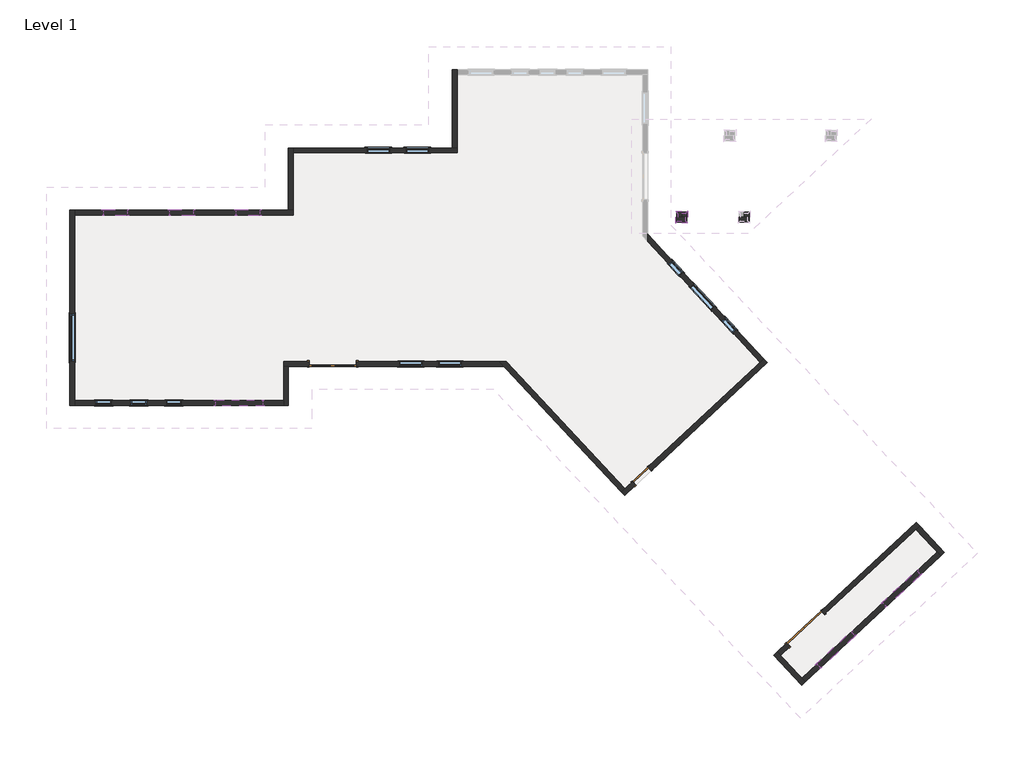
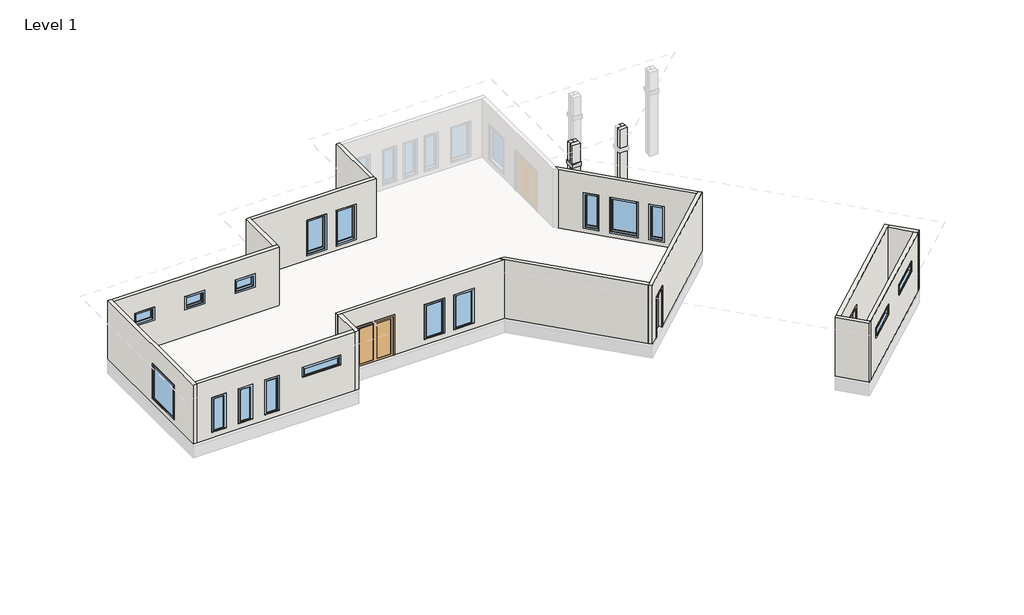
# One storey, part 1 of 2: 21 walls, 17 windows, 4 proxies, 3 doors.
"""IFC4 building model written with IfcOpenShell, lengths in millimetres."""

from ifc_helpers import new_model, si_unit, frame, origin, place, context, project, spatial, polyline, outline, extrude, faceted_brep, transform, mapped, element, save
from components import door_e0fa97f4, door_ae1b4af6, door_46f97d73, window_8ec664a6, window_aa1e092f, window_eea7dd42, window_e6bbc231, window_97fb18ba, window_4d68e60d, window_bde21944

model = new_model("IFC4")

# Units and contexts
model_context = context("Model", 3, world=origin())
ifc_project = project(units=[si_unit("LENGTHUNIT", "METRE", prefix="MILLI")], contexts=[model_context])

# Site, building, storey
site = spatial("IfcSite", under=ifc_project)
building = spatial("IfcBuilding", under=site)
storey = spatial("IfcBuildingStorey", under=building, Name="Level 1", Elevation=0.0)

# Proxies
placement = place(None, origin())
element("IfcBuildingElementProxy", 1, Name="Reveals", at=placement, inside=storey, context=model_context, shape_type="SweptSolid", body=[
    extrude(outline(polyline([(23652.4450389, 7110.4125), (23744.5200389, 7202.4875), (24039.7950389, 7202.4875), (24131.8700389, 7110.4125), (23652.4450389, 7110.4125)])), frame((0.0, 0.0, 2438.4), z_axis=(0.0, 0.0, 1.0), x_axis=(1.0, 0.0, 0.0)), (0.0, 0.0, 1.0), 203.2),
])
element("IfcBuildingElementProxy", 2, Name="Reveals", at=placement, inside=storey, context=model_context, shape_type="SweptSolid", body=[
    extrude(outline(polyline([(24131.8700389, 7110.4125), (24039.7950389, 7202.4875), (24039.7950389, 7497.7625), (24131.8700389, 7589.8375), (24131.8700389, 7110.4125)])), frame((0.0, 0.0, 2438.4), z_axis=(0.0, 0.0, 1.0), x_axis=(1.0, 0.0, 0.0)), (0.0, 0.0, 1.0), 203.2),
])
element("IfcBuildingElementProxy", 3, Name="Reveals", at=placement, inside=storey, context=model_context, shape_type="SweptSolid", body=[
    extrude(outline(polyline([(24131.8700389, 7589.8375), (24039.7950389, 7497.7625), (23744.5200389, 7497.7625), (23652.4450389, 7589.8375), (24131.8700389, 7589.8375)])), frame((0.0, 0.0, 2438.4), z_axis=(0.0, 0.0, 1.0), x_axis=(1.0, 0.0, 0.0)), (0.0, 0.0, 1.0), 203.2),
])
element("IfcBuildingElementProxy", 4, Name="Reveals", at=placement, inside=storey, context=model_context, shape_type="SweptSolid", body=[
    extrude(outline(polyline([(23744.5200389, 7202.4875), (23652.4450389, 7110.4125), (23652.4450389, 7589.8375), (23744.5200389, 7497.7625), (23744.5200389, 7202.4875)])), frame((0.0, 0.0, 2438.4), z_axis=(0.0, 0.0, 1.0), x_axis=(1.0, 0.0, 0.0)), (0.0, 0.0, 1.0), 203.2),
])

# Doors
door_shape = door_e0fa97f4(model_context)
element("IfcDoor", 5, ObjectType="Double-Flush : 72\" x 84\"", at=placement, inside=storey, context=model_context, shape_type="MappedRepresentation", body=[
    mapped(door_shape, transform((28731.3248726, -8730.0688909, 0.0), x_axis=(0.7313537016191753, 0.6819983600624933, 0.0), y_axis=(-0.6819983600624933, 0.7313537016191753, 0.0), z_axis=(0.0, 0.0, 1.0))),
])
door_2_shape = door_ae1b4af6(model_context)
element("IfcDoor", 6, ObjectType="Double-Glass 1 : 72\" x 84\"", at=placement, inside=storey, context=model_context, shape_type="MappedRepresentation", body=[
    mapped(door_2_shape, transform((10266.3625, 1623.21875, 0.0), x_axis=(-1.0, 0.0, 0.0), y_axis=(0.0, -1.0, 0.0), z_axis=(0.0, 0.0, 1.0))),
])
door_3_shape = door_46f97d73(model_context)
element("IfcDoor", 7, ObjectType="Single-Flush : 32\" x 84\"", at=placement, inside=storey, context=model_context, shape_type="MappedRepresentation", body=[
    mapped(door_3_shape, transform((22332.9588196, -2762.5051319, 0.0), x_axis=(-0.7313537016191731, -0.6819983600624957, 0.0), y_axis=(0.6819983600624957, -0.7313537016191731, 0.0), z_axis=(0.0, 0.0, 1.0))),
])

# Walls
element("IfcWall", 8, ObjectType="Column - 8\" Concrete", at=placement, inside=storey, context=model_context, shape_type="Brep", body=[
    faceted_brep([(23693.7200389, 7151.6875, -914.4), (24090.5950389, 7151.6875, -914.4), (24090.5950389, 7151.6875, 2438.4), (23693.7200389, 7151.6875, 2438.4), (24090.5950389, 7151.6875, 3657.6), (23693.7200389, 7151.6875, 3657.6), (23693.7200389, 7151.6875, 2641.6), (24090.5950389, 7151.6875, 2641.6), (24090.5950389, 7345.3625, -914.4), (23896.9200389, 7345.3625, -914.4), (23887.3950389, 7345.3625, -914.4), (23693.7200389, 7345.3625, -914.4), (23693.7200389, 7345.3625, 2438.4), (23744.5200389, 7345.3625, 2438.4), (23744.5200389, 7345.3625, 2641.6), (23693.7200389, 7345.3625, 2641.6), (23693.7200389, 7345.3625, 3657.6), (23887.3950389, 7345.3625, 3657.6), (23896.9200389, 7345.3625, 3657.6), (24090.5950389, 7345.3625, 3657.6), (24090.5950389, 7345.3625, 2641.6), (24039.7950389, 7345.3625, 2641.6), (24039.7950389, 7345.3625, 2438.4), (24090.5950389, 7345.3625, 2438.4), (23744.5200389, 7202.4875, 2641.6), (23744.5200389, 7202.4875, 2438.4), (24039.7950389, 7202.4875, 2438.4), (24039.7950389, 7202.4875, 2641.6)], [[[0, 1, 2, 3]], [[4, 5, 6, 7]], [[8, 9, 10, 11, 12, 13, 14, 15, 16, 17, 18, 19, 20, 21, 22, 23]], [[1, 0, 11, 10, 9, 8]], [[1, 8, 23, 2]], [[19, 4, 7, 20]], [[24, 25, 26, 27]], [[27, 26, 22, 21]], [[11, 0, 3, 12]], [[5, 16, 15, 6]], [[24, 27, 21, 20, 7, 6, 15, 14]], [[26, 25, 13, 12, 3, 2, 23, 22]], [[25, 24, 14, 13]], [[5, 4, 19, 18, 17, 16]]]),
])
element("IfcWall", 9, ObjectType="Column - 8\" Concrete", at=placement, inside=storey, context=model_context, shape_type="Brep", body=[
    faceted_brep([(24090.5950389, 7345.3625, -914.4), (24090.5950389, 7548.5625, -914.4), (24090.5950389, 7548.5625, 2438.4), (24090.5950389, 7345.3625, 2438.4), (24090.5950389, 7548.5625, 3657.6), (24090.5950389, 7345.3625, 3657.6), (24090.5950389, 7345.3625, 2641.6), (24090.5950389, 7548.5625, 2641.6), (23896.9200389, 7548.5625, -914.4), (23896.9200389, 7354.8875, -914.4), (23896.9200389, 7345.3625, -914.4), (23896.9200389, 7345.3625, 3657.6), (23896.9200389, 7354.8875, 3657.6), (23896.9200389, 7548.5625, 3657.6), (23896.9200389, 7548.5625, 2641.6), (23896.9200389, 7497.7625, 2641.6), (23896.9200389, 7497.7625, 2438.4), (23896.9200389, 7548.5625, 2438.4), (24039.7950389, 7345.3625, 2438.4), (24039.7950389, 7345.3625, 2641.6), (24039.7950389, 7497.7625, 2641.6), (24039.7950389, 7497.7625, 2438.4)], [[[0, 1, 2, 3]], [[4, 5, 6, 7]], [[8, 9, 10, 11, 12, 13, 14, 15, 16, 17]], [[1, 0, 10, 9, 8]], [[11, 10, 0, 3, 18, 19, 6, 5]], [[1, 8, 17, 2]], [[13, 4, 7, 14]], [[19, 20, 15, 14, 7, 6]], [[16, 21, 18, 3, 2, 17]], [[21, 20, 19, 18]], [[20, 21, 16, 15]], [[5, 4, 13, 12, 11]]]),
])
element("IfcWall", 10, ObjectType="Column - 8\" Concrete", at=placement, inside=storey, context=model_context, shape_type="Brep", body=[
    faceted_brep([(23896.9200389, 7548.5625, -914.4), (23693.7200389, 7548.5625, -914.4), (23693.7200389, 7548.5625, 2438.4), (23896.9200389, 7548.5625, 2438.4), (23693.7200389, 7548.5625, 3657.6), (23896.9200389, 7548.5625, 3657.6), (23896.9200389, 7548.5625, 2641.6), (23693.7200389, 7548.5625, 2641.6), (23693.7200389, 7354.8875, -914.4), (23887.3950389, 7354.8875, -914.4), (23896.9200389, 7354.8875, -914.4), (23896.9200389, 7354.8875, 3657.6), (23887.3950389, 7354.8875, 3657.6), (23693.7200389, 7354.8875, 3657.6), (23693.7200389, 7354.8875, 2641.6), (23744.5200389, 7354.8875, 2641.6), (23744.5200389, 7354.8875, 2438.4), (23693.7200389, 7354.8875, 2438.4), (23896.9200389, 7497.7625, 2438.4), (23896.9200389, 7497.7625, 2641.6), (23744.5200389, 7497.7625, 2641.6), (23744.5200389, 7497.7625, 2438.4)], [[[0, 1, 2, 3]], [[4, 5, 6, 7]], [[8, 9, 10, 11, 12, 13, 14, 15, 16, 17]], [[1, 0, 10, 9, 8]], [[11, 10, 0, 3, 18, 19, 6, 5]], [[19, 20, 15, 14, 7, 6]], [[16, 21, 18, 3, 2, 17]], [[21, 20, 19, 18]], [[1, 8, 17, 2]], [[13, 4, 7, 14]], [[20, 21, 16, 15]], [[5, 4, 13, 12, 11]]]),
])
element("IfcWall", 11, ObjectType="Column - 8\" Concrete", at=placement, inside=storey, context=model_context, shape_type="SweptSolid", body=[
    extrude(outline(polyline([(-914.4, 23887.3950389), (3657.6, 23887.3950389), (3657.6, 23693.7200389), (2641.6, 23693.7200389), (2641.6, 23744.5200389), (2438.4, 23744.5200389), (2438.4, 23693.7200389), (-914.4, 23693.7200389), (-914.4, 23887.3950389)])), frame((0.0, 7345.3625, 0.0), z_axis=(0.0, 1.0, 0.0), x_axis=(0.0, 0.0, 1.0)), (0.0, 0.0, 1.0), 9.525),
])
element("IfcWall", 12, ObjectType="Column - 8\" Concrete", at=placement, inside=storey, context=model_context, shape_type="Brep", body=[
    faceted_brep([(26132.1200389, 7151.6875, -914.4), (26528.9950389, 7151.6875, -914.4), (26528.9950389, 7151.6875, 2438.4), (26132.1200389, 7151.6875, 2438.4), (26528.9950389, 7151.6875, 3657.6), (26132.1200389, 7151.6875, 3657.6), (26132.1200389, 7151.6875, 2641.6), (26528.9950389, 7151.6875, 2641.6), (26528.9950389, 7345.3625, -914.4), (26335.3200389, 7345.3625, -914.4), (26325.7950389, 7345.3625, -914.4), (26132.1200389, 7345.3625, -914.4), (26132.1200389, 7345.3625, 2438.4), (26182.9200389, 7345.3625, 2438.4), (26182.9200389, 7345.3625, 2641.6), (26132.1200389, 7345.3625, 2641.6), (26132.1200389, 7345.3625, 3657.6), (26325.7950389, 7345.3625, 3657.6), (26335.3200389, 7345.3625, 3657.6), (26528.9950389, 7345.3625, 3657.6), (26528.9950389, 7345.3625, 2641.6), (26478.1950389, 7345.3625, 2641.6), (26478.1950389, 7345.3625, 2438.4), (26528.9950389, 7345.3625, 2438.4), (26182.9200389, 7202.4875, 2641.6), (26182.9200389, 7202.4875, 2438.4), (26478.1950389, 7202.4875, 2438.4), (26478.1950389, 7202.4875, 2641.6)], [[[0, 1, 2, 3]], [[4, 5, 6, 7]], [[8, 9, 10, 11, 12, 13, 14, 15, 16, 17, 18, 19, 20, 21, 22, 23]], [[1, 0, 11, 10, 9, 8]], [[1, 8, 23, 2]], [[19, 4, 7, 20]], [[24, 25, 26, 27]], [[27, 26, 22, 21]], [[11, 0, 3, 12]], [[5, 16, 15, 6]], [[24, 27, 21, 20, 7, 6, 15, 14]], [[26, 25, 13, 12, 3, 2, 23, 22]], [[25, 24, 14, 13]], [[5, 4, 19, 18, 17, 16]]]),
])
element("IfcWall", 13, ObjectType="Column - 8\" Concrete", at=placement, inside=storey, context=model_context, shape_type="Brep", body=[
    faceted_brep([(26528.9950389, 7345.3625, -914.4), (26528.9950389, 7548.5625, -914.4), (26528.9950389, 7548.5625, 2438.4), (26528.9950389, 7345.3625, 2438.4), (26528.9950389, 7548.5625, 3657.6), (26528.9950389, 7345.3625, 3657.6), (26528.9950389, 7345.3625, 2641.6), (26528.9950389, 7548.5625, 2641.6), (26335.3200389, 7548.5625, -914.4), (26335.3200389, 7354.8875, -914.4), (26335.3200389, 7345.3625, -914.4), (26335.3200389, 7345.3625, 3657.6), (26335.3200389, 7354.8875, 3657.6), (26335.3200389, 7548.5625, 3657.6), (26335.3200389, 7548.5625, 2641.6), (26335.3200389, 7497.7625, 2641.6), (26335.3200389, 7497.7625, 2438.4), (26335.3200389, 7548.5625, 2438.4), (26478.1950389, 7345.3625, 2438.4), (26478.1950389, 7345.3625, 2641.6), (26478.1950389, 7497.7625, 2641.6), (26478.1950389, 7497.7625, 2438.4)], [[[0, 1, 2, 3]], [[4, 5, 6, 7]], [[8, 9, 10, 11, 12, 13, 14, 15, 16, 17]], [[1, 0, 10, 9, 8]], [[11, 10, 0, 3, 18, 19, 6, 5]], [[1, 8, 17, 2]], [[13, 4, 7, 14]], [[19, 20, 15, 14, 7, 6]], [[16, 21, 18, 3, 2, 17]], [[21, 20, 19, 18]], [[20, 21, 16, 15]], [[5, 4, 13, 12, 11]]]),
])
element("IfcWall", 14, ObjectType="Generic - 8\" Concrete", at=placement, inside=storey, context=model_context, shape_type="Brep", body=[
    faceted_brep([(193.675, 0.0, 0.0), (193.675, 193.675, 0.0), (193.675, 7426.325, 0.0), (193.675, 7620.0, 0.0), (193.675, 7620.0, 3200.4), (193.675, 7426.325, 3200.4), (193.675, 193.675, 3200.4), (193.675, 0.0, 3200.4), (193.675, 3560.7625, 2133.6), (193.675, 3560.7625, 304.8), (193.675, 1731.9625, 304.8), (193.675, 1731.9625, 2133.6), (0.0, 0.0, 0.0), (0.0, 0.0, 3200.4), (0.0, 7620.0, 3200.4), (0.0, 7620.0, 0.0), (0.0, 3560.7625, 2133.6), (0.0, 1731.9625, 2133.6), (0.0, 1731.9625, 304.8), (0.0, 3560.7625, 304.8)], [[[0, 1, 2, 3, 4, 5, 6, 7], [8, 9, 10, 11]], [[12, 13, 14, 15], [16, 17, 18, 19]], [[3, 2, 1, 0, 12, 15]], [[4, 3, 15, 14]], [[0, 7, 13, 12]], [[7, 6, 5, 4, 14, 13]], [[9, 8, 16, 19]], [[10, 9, 19, 18]], [[11, 10, 18, 17]], [[8, 11, 17, 16]]]),
])
element("IfcWall", 15, ObjectType="Generic - 8\" Concrete", at=placement, inside=storey, context=model_context, shape_type="Brep", body=[
    faceted_brep([(193.675, 7426.325, 0.0), (8728.075, 7426.325, 0.0), (8728.075, 7426.325, 3200.4), (193.675, 7426.325, 3200.4), (7412.0375, 7426.325, 2133.6), (7412.0375, 7426.325, 1524.0), (6497.6375, 7426.325, 1524.0), (6497.6375, 7426.325, 2133.6), (4821.2375, 7426.325, 2133.6), (4821.2375, 7426.325, 1524.0), (3906.8375, 7426.325, 1524.0), (3906.8375, 7426.325, 2133.6), (2230.4375, 7426.325, 2133.6), (2230.4375, 7426.325, 1524.0), (1316.0375, 7426.325, 1524.0), (1316.0375, 7426.325, 2133.6), (193.675, 7620.0, 0.0), (193.675, 7620.0, 3200.4), (8534.4, 7620.0, 3200.4), (8728.075, 7620.0, 3200.4), (8728.075, 7620.0, 0.0), (8534.4, 7620.0, 0.0), (7412.0375, 7620.0, 2133.6), (6497.6375, 7620.0, 2133.6), (6497.6375, 7620.0, 1524.0), (7412.0375, 7620.0, 1524.0), (4821.2375, 7620.0, 2133.6), (3906.8375, 7620.0, 2133.6), (3906.8375, 7620.0, 1524.0), (4821.2375, 7620.0, 1524.0), (2230.4375, 7620.0, 2133.6), (1316.0375, 7620.0, 2133.6), (1316.0375, 7620.0, 1524.0), (2230.4375, 7620.0, 1524.0)], [[[0, 1, 2, 3], [4, 5, 6, 7], [8, 9, 10, 11], [12, 13, 14, 15]], [[16, 17, 18, 19, 20, 21], [22, 23, 24, 25], [26, 27, 28, 29], [30, 31, 32, 33]], [[1, 0, 16, 21, 20]], [[0, 3, 17, 16]], [[2, 1, 20, 19]], [[3, 2, 19, 18, 17]], [[5, 4, 22, 25]], [[6, 5, 25, 24]], [[7, 6, 24, 23]], [[4, 7, 23, 22]], [[9, 8, 26, 29]], [[10, 9, 29, 28]], [[11, 10, 28, 27]], [[8, 11, 27, 26]], [[13, 12, 30, 33]], [[14, 13, 33, 32]], [[15, 14, 32, 31]], [[12, 15, 31, 30]]]),
])
element("IfcWall", 16, ObjectType="Generic - 8\" Concrete", at=placement, inside=storey, context=model_context, shape_type="Brep", body=[
    faceted_brep([(8728.075, 7620.0, 0.0), (8728.075, 9864.725, 0.0), (8728.075, 10058.4, 0.0), (8728.075, 10058.4, 3200.4), (8728.075, 9864.725, 3200.4), (8728.075, 7620.0, 3200.4), (8534.4, 7620.0, 0.0), (8534.4, 7620.0, 3200.4), (8534.4, 10058.4, 3200.4), (8534.4, 10058.4, 0.0)], [[[0, 1, 2, 3, 4, 5]], [[6, 7, 8, 9]], [[2, 1, 0, 6, 9]], [[0, 5, 7, 6]], [[3, 2, 9, 8]], [[5, 4, 3, 8, 7]]]),
])
element("IfcWall", 17, ObjectType="Generic - 8\" Concrete", at=placement, inside=storey, context=model_context, shape_type="Brep", body=[
    faceted_brep([(8728.075, 9864.725, 0.0), (15128.875, 9864.725, 0.0), (15128.875, 9864.725, 3200.4), (8728.075, 9864.725, 3200.4), (12505.6485918, 9864.725, 2133.6), (12505.6485918, 9864.725, 304.8), (11591.2485918, 9864.725, 304.8), (11591.2485918, 9864.725, 2133.6), (14029.6485918, 9864.725, 2133.6), (14029.6485918, 9864.725, 304.8), (13115.2485918, 9864.725, 304.8), (13115.2485918, 9864.725, 2133.6), (8728.075, 10058.4, 0.0), (8728.075, 10058.4, 3200.4), (14935.2, 10058.4, 3200.4), (15128.875, 10058.4, 3200.4), (15128.875, 10058.4, 0.0), (14935.2, 10058.4, 0.0), (12505.6485918, 10058.4, 2133.6), (11591.2485918, 10058.4, 2133.6), (11591.2485918, 10058.4, 304.8), (12505.6485918, 10058.4, 304.8), (14029.6485918, 10058.4, 2133.6), (13115.2485918, 10058.4, 2133.6), (13115.2485918, 10058.4, 304.8), (14029.6485918, 10058.4, 304.8)], [[[0, 1, 2, 3], [4, 5, 6, 7], [8, 9, 10, 11]], [[12, 13, 14, 15, 16, 17], [18, 19, 20, 21], [22, 23, 24, 25]], [[1, 0, 12, 17, 16]], [[0, 3, 13, 12]], [[2, 1, 16, 15]], [[3, 2, 15, 14, 13]], [[5, 4, 18, 21]], [[6, 5, 21, 20]], [[7, 6, 20, 19]], [[4, 7, 19, 18]], [[9, 8, 22, 25]], [[10, 9, 25, 24]], [[11, 10, 24, 23]], [[8, 11, 23, 22]]]),
])
element("IfcWall", 18, ObjectType="Generic - 8\" Concrete", at=placement, inside=storey, context=model_context, shape_type="Brep", body=[
    faceted_brep([(15128.875, 10058.4, 0.0), (15128.875, 12912.725, 0.0), (15128.875, 13106.4, 0.0), (15128.875, 13106.4, 3200.4), (15128.875, 12912.725, 3200.4), (15128.875, 10058.4, 3200.4), (14935.2, 10058.4, 0.0), (14935.2, 10058.4, 3200.4), (14935.2, 13106.4, 3200.4), (14935.2, 13106.4, 0.0)], [[[0, 1, 2, 3, 4, 5]], [[6, 7, 8, 9]], [[2, 1, 0, 6, 9]], [[0, 5, 7, 6]], [[3, 2, 9, 8]], [[5, 4, 3, 8, 7]]]),
])
element("IfcWall", 19, ObjectType="Generic - 8\" Concrete", at=placement, inside=storey, context=model_context, shape_type="Brep", body=[
    faceted_brep([(21969.6936591, -2968.8468013, 2133.6), (21969.6936591, -2968.8468013, 0.0), (21668.9884427, -3249.2589521, 0.0), (21527.3435146, -3381.3449845, 0.0), (21527.3435146, -3381.3449845, 3200.4), (21668.9884427, -3249.2589521, 3200.4), (26955.6736141, 1680.6547259, 3200.4), (27097.3185422, 1812.7407582, 3200.4), (27097.3185422, 1812.7407582, 0.0), (26955.6736141, 1680.6547259, 0.0), (22564.1379478, -2414.5185343, 0.0), (22564.1379478, -2414.5185343, 2133.6), (21659.429547, -3522.9899126, 0.0), (22101.7796915, -3110.4917295, 0.0), (22101.7796915, -3110.4917295, 2133.6), (22696.2239801, -2556.1634625, 2133.6), (22696.2239801, -2556.1634625, 0.0), (27229.4045746, 1671.0958301, 0.0), (27229.4045746, 1671.0958301, 3200.4), (21659.429547, -3522.9899126, 3200.4)], [[[0, 1, 2, 3, 4, 5, 6, 7, 8, 9, 10, 11]], [[12, 13, 14, 15, 16, 17, 18, 19]], [[3, 2, 1, 13, 12]], [[10, 9, 8, 17, 16]], [[4, 3, 12, 19]], [[14, 13, 1, 0]], [[15, 14, 0, 11]], [[16, 15, 11, 10]], [[7, 6, 5, 4, 19, 18]], [[8, 7, 18, 17]]]),
])
element("IfcWall", 20, ObjectType="Generic - 8\" Concrete", at=placement, inside=storey, context=model_context, shape_type="Brep", body=[
    faceted_brep([(21668.9884427, -3249.2589521, 0.0), (17037.2476006, 1717.675, 0.0), (17037.2476006, 1717.675, 3200.4), (21668.9884427, -3249.2589521, 3200.4), (21527.3435146, -3381.3449845, 0.0), (21527.3435146, -3381.3449845, 3200.4), (16953.0353139, 1524.0, 3200.4), (16772.4304546, 1717.675, 3200.4), (16772.4304546, 1717.675, 0.0), (16953.0353139, 1524.0, 0.0)], [[[0, 1, 2, 3]], [[4, 5, 6, 7, 8, 9]], [[1, 0, 4, 9, 8]], [[0, 3, 5, 4]], [[2, 1, 8, 7]], [[3, 2, 7, 6, 5]]]),
])
element("IfcWall", 21, ObjectType="Generic - 8\" Concrete", at=placement, inside=storey, context=model_context, shape_type="Brep", body=[
    faceted_brep([(8340.725, 1717.675, 0.0), (8340.725, 1717.675, 3200.4), (16772.4304546, 1717.675, 3200.4), (16772.4304546, 1717.675, 0.0), (11180.7625, 1717.675, 0.0), (11180.7625, 1717.675, 2133.6), (9351.9625, 1717.675, 2133.6), (9351.9625, 1717.675, 0.0), (13771.5625, 1717.675, 2133.6), (12857.1625, 1717.675, 2133.6), (12857.1625, 1717.675, 304.8), (13771.5625, 1717.675, 304.8), (15295.5625, 1717.675, 2133.6), (14381.1625, 1717.675, 2133.6), (14381.1625, 1717.675, 304.8), (15295.5625, 1717.675, 304.8), (8340.725, 1524.0, 3200.4), (8340.725, 1524.0, 0.0), (8534.4, 1524.0, 0.0), (9351.9625, 1524.0, 0.0), (9351.9625, 1524.0, 2133.6), (11180.7625, 1524.0, 2133.6), (11180.7625, 1524.0, 0.0), (16953.0353139, 1524.0, 0.0), (16953.0353139, 1524.0, 3200.4), (8534.4, 1524.0, 3200.4), (13771.5625, 1524.0, 2133.6), (13771.5625, 1524.0, 304.8), (12857.1625, 1524.0, 304.8), (12857.1625, 1524.0, 2133.6), (15295.5625, 1524.0, 2133.6), (15295.5625, 1524.0, 304.8), (14381.1625, 1524.0, 304.8), (14381.1625, 1524.0, 2133.6)], [[[0, 1, 2, 3, 4, 5, 6, 7], [8, 9, 10, 11], [12, 13, 14, 15]], [[16, 17, 18, 19, 20, 21, 22, 23, 24, 25], [26, 27, 28, 29], [30, 31, 32, 33]], [[17, 0, 7, 19, 18]], [[3, 23, 22, 4]], [[1, 0, 17, 16]], [[3, 2, 24, 23]], [[6, 20, 19, 7]], [[20, 6, 5, 21]], [[21, 5, 4, 22]], [[27, 26, 8, 11]], [[28, 27, 11, 10]], [[29, 28, 10, 9]], [[26, 29, 9, 8]], [[2, 1, 16, 25, 24]], [[31, 30, 12, 15]], [[32, 31, 15, 14]], [[33, 32, 14, 13]], [[30, 33, 13, 12]]]),
])
element("IfcWall", 22, ObjectType="Generic - 8\" Concrete", at=placement, inside=storey, context=model_context, shape_type="Brep", body=[
    faceted_brep([(8340.725, 1524.0, 0.0), (8340.725, 193.675, 0.0), (8340.725, 0.0, 0.0), (8340.725, 0.0, 3200.4), (8340.725, 193.675, 3200.4), (8340.725, 1524.0, 3200.4), (8534.4, 1524.0, 0.0), (8534.4, 1524.0, 3200.4), (8534.4, 0.0, 3200.4), (8534.4, 0.0, 0.0)], [[[0, 1, 2, 3, 4, 5]], [[6, 7, 8, 9]], [[2, 1, 0, 6, 9]], [[0, 5, 7, 6]], [[3, 2, 9, 8]], [[5, 4, 3, 8, 7]]]),
])
element("IfcWall", 23, ObjectType="Generic - 8\" Concrete", at=placement, inside=storey, context=model_context, shape_type="SweptSolid", body=[
    extrude(outline(polyline([(0.0, 8340.725), (3200.4, 8340.725), (3200.4, 193.675), (0.0, 193.675), (0.0, 8340.725)]), holes=[polyline([(2133.6, 1011.2375), (2133.6, 1620.8375), (304.8, 1620.8375), (304.8, 1011.2375), (2133.6, 1011.2375)]), polyline([(2133.6, 3754.4375), (2133.6, 4364.0375), (304.8, 4364.0375), (304.8, 3754.4375), (2133.6, 3754.4375)]), polyline([(2133.6, 5694.3625), (2133.6, 7523.1625), (1676.4, 7523.1625), (1676.4, 5694.3625), (2133.6, 5694.3625)]), polyline([(2133.6, 2382.8375), (2133.6, 2992.4375), (304.8, 2992.4375), (304.8, 2382.8375), (2133.6, 2382.8375)])]), frame((0.0, 0.0, 0.0), z_axis=(0.0, 1.0, 0.0), x_axis=(0.0, 0.0, 1.0)), (0.0, 0.0, 1.0), 193.675),
])
element("IfcWall", 24, ObjectType="Generic - 8\" Concrete", at=placement, inside=storey, context=model_context, shape_type="Brep", body=[
    faceted_brep([(28717.1857446, -10807.5252007, 0.0), (28585.0997122, -10665.8802725, 0.0), (27753.6073116, -9774.2138395, 0.0), (27621.5212792, -9632.5689113, 0.0), (27621.5212792, -9632.5689113, 3200.4), (27753.6073116, -9774.2138395, 3200.4), (28585.0997122, -10665.8802725, 3200.4), (28717.1857446, -10807.5252007, 3200.4), (28575.5408164, -10939.611233, 0.0), (28575.5408164, -10939.611233, 3200.4), (27479.8763511, -9764.6549437, 3200.4), (27479.8763511, -9764.6549437, 0.0)], [[[0, 1, 2, 3, 4, 5, 6, 7]], [[8, 9, 10, 11]], [[3, 2, 1, 0, 8, 11]], [[0, 7, 9, 8]], [[4, 3, 11, 10]], [[7, 6, 5, 4, 10, 9]]]),
])
element("IfcWall", 25, ObjectType="Generic - 8\" Concrete", at=placement, inside=storey, context=model_context, shape_type="Brep", body=[
    faceted_brep([(27753.6073116, -9774.2138395, 3200.4), (27753.6073116, -9774.2138395, 0.0), (28128.6180641, -9424.5106554, 0.0), (28128.6180641, -9424.5106554, 2133.6), (29466.1177136, -8177.2720545, 2133.6), (29466.1177136, -8177.2720545, 0.0), (33040.292483, -4844.3001616, 0.0), (33181.9374111, -4712.2141292, 0.0), (33181.9374111, -4712.2141292, 3200.4), (33040.292483, -4844.3001616, 3200.4), (27621.5212792, -9632.5689113, 0.0), (27621.5212792, -9632.5689113, 3200.4), (33049.8513787, -4570.569201, 3200.4), (33049.8513787, -4570.569201, 0.0), (29334.0316812, -8035.6271263, 0.0), (29334.0316812, -8035.6271263, 2133.6), (27996.5320317, -9282.8657272, 2133.6), (27996.5320317, -9282.8657272, 0.0)], [[[0, 1, 2, 3, 4, 5, 6, 7, 8, 9]], [[10, 11, 12, 13, 14, 15, 16, 17]], [[1, 10, 17, 2]], [[13, 7, 6, 5, 14]], [[1, 0, 11, 10]], [[8, 7, 13, 12]], [[4, 15, 14, 5]], [[15, 4, 3, 16]], [[16, 3, 2, 17]], [[0, 9, 8, 12, 11]]]),
])
element("IfcWall", 26, ObjectType="Generic - 8\" Concrete", at=placement, inside=storey, context=model_context, shape_type="Brep", body=[
    faceted_brep([(33040.292483, -4844.3001616, 0.0), (33871.7848836, -5735.9665946, 0.0), (34003.8709159, -5877.6115227, 0.0), (34003.8709159, -5877.6115227, 3200.4), (33871.7848836, -5735.9665946, 3200.4), (33040.292483, -4844.3001616, 3200.4), (33181.9374111, -4712.2141292, 0.0), (33181.9374111, -4712.2141292, 3200.4), (34145.5158441, -5745.5254903, 3200.4), (34145.5158441, -5745.5254903, 0.0)], [[[0, 1, 2, 3, 4, 5]], [[6, 7, 8, 9]], [[2, 1, 0, 6, 9]], [[3, 2, 9, 8]], [[0, 5, 7, 6]], [[5, 4, 3, 8, 7]]]),
])
element("IfcWall", 27, ObjectType="Generic - 8\" Concrete", at=placement, inside=storey, context=model_context, shape_type="SweptSolid", body=[
    extrude(outline(polyline([(-189.7832293, 0.0), (-189.7832293, -3200.4), (-7418.4130423, -3200.4), (-7418.4130423, 0.0), (-189.7832293, 0.0)]), holes=[polyline([(-4772.0505422, -2286.0), (-4772.0505422, -1828.8), (-6600.8505422, -1828.8), (-6600.8505422, -2286.0), (-4772.0505422, -2286.0)]), polyline([(-1266.8505422, -2286.0), (-1266.8505422, -1828.8), (-3095.6505422, -1828.8), (-3095.6505422, -2286.0), (-1266.8505422, -2286.0)])]), frame((34142.6695832, -5748.1796716, 0.0), z_axis=(-0.6819983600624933, 0.7313537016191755, 0.0), x_axis=(0.7313537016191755, 0.6819983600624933, 0.0)), (0.0, 0.0, 1.0), 193.675),
])
element("IfcWall", 28, ObjectType="Generic - 8\" Concrete", at=placement, inside=storey, context=model_context, shape_type="Brep", body=[
    faceted_brep([(22555.2, 6399.5849389, 0.0), (26955.6736141, 1680.6547259, 0.0), (26955.6736141, 1680.6547259, 3200.4), (22555.2, 6399.5849389, 3200.4), (25878.4145795, 2835.8736072, 2133.6), (25878.4145795, 2835.8736072, 304.8), (25462.6683792, 3281.7068237, 304.8), (25462.6683792, 3281.7068237, 2133.6), (24215.4297783, 4619.2064732, 304.8), (24215.4297783, 4619.2064732, 2133.6), (25046.9221789, 3727.5400402, 2133.6), (25046.9221789, 3727.5400402, 304.8), (23799.683578, 5065.0396897, 2133.6), (23799.683578, 5065.0396897, 304.8), (23383.9373777, 5510.8729062, 304.8), (23383.9373777, 5510.8729062, 2133.6), (27097.3185422, 1812.7407582, 0.0), (22555.2, 6683.5665602, 0.0), (22555.2, 6683.5665602, 3200.4), (27097.3185422, 1812.7407582, 3200.4), (26020.0595076, 2967.9596396, 2133.6), (25604.3133073, 3413.7928561, 2133.6), (25604.3133073, 3413.7928561, 304.8), (26020.0595076, 2967.9596396, 304.8), (24357.0747065, 4751.2925056, 2133.6), (24357.0747065, 4751.2925056, 304.8), (25188.567107, 3859.6260726, 304.8), (25188.567107, 3859.6260726, 2133.6), (23941.3285062, 5197.1257221, 2133.6), (23525.5823059, 5642.9589386, 2133.6), (23525.5823059, 5642.9589386, 304.8), (23941.3285062, 5197.1257221, 304.8)], [[[0, 1, 2, 3], [4, 5, 6, 7], [8, 9, 10, 11], [12, 13, 14, 15]], [[16, 17, 18, 19], [20, 21, 22, 23], [24, 25, 26, 27], [28, 29, 30, 31]], [[1, 0, 17, 16]], [[2, 1, 16, 19]], [[3, 2, 19, 18]], [[0, 3, 18, 17]], [[5, 4, 20, 23]], [[6, 5, 23, 22]], [[7, 6, 22, 21]], [[4, 7, 21, 20]], [[24, 9, 8, 25]], [[25, 8, 11, 26]], [[26, 11, 10, 27]], [[9, 24, 27, 10]], [[13, 12, 28, 31]], [[14, 13, 31, 30]], [[15, 14, 30, 29]], [[12, 15, 29, 28]]]),
])

# Windows
window_shape = window_8ec664a6(model_context)
element("IfcWindow", 29, ObjectType="Casement with Trim : 24\" x 72\"", at=placement, inside=storey, context=model_context, shape_type="MappedRepresentation", body=[
    mapped(window_shape, transform((1316.0375, 96.8375, 0.0), x_axis=(-1.0, 0.0, 0.0), y_axis=(0.0, -1.0, 0.0), z_axis=(0.0, 0.0, 1.0))),
])
element("IfcWindow", 30, ObjectType="Casement with Trim : 24\" x 72\"", at=placement, inside=storey, context=model_context, shape_type="MappedRepresentation", body=[
    mapped(window_shape, transform((4059.2375, 96.8375, 0.0), x_axis=(-1.0, 0.0, 0.0), y_axis=(0.0, -1.0, 0.0), z_axis=(0.0, 0.0, 1.0))),
])
element("IfcWindow", 31, ObjectType="Casement with Trim : 24\" x 72\"", at=placement, inside=storey, context=model_context, shape_type="MappedRepresentation", body=[
    mapped(window_shape, transform((2687.6375, 96.8375, 0.0), x_axis=(-1.0, 0.0, 0.0), y_axis=(0.0, -1.0, 0.0), z_axis=(0.0, 0.0, 1.0))),
])
element("IfcWindow", 32, ObjectType="Casement with Trim : 24\" x 72\"", at=placement, inside=storey, context=model_context, shape_type="MappedRepresentation", body=[
    mapped(window_shape, transform((25741.3639434, 3124.8332316, 0.0), x_axis=(0.6819983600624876, -0.7313537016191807, 0.0), y_axis=(0.7313537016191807, 0.6819983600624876, 0.0), z_axis=(0.0, 0.0, 1.0))),
])
element("IfcWindow", 33, ObjectType="Casement with Trim : 24\" x 72\"", at=placement, inside=storey, context=model_context, shape_type="MappedRepresentation", body=[
    mapped(window_shape, transform((23662.6329419, 5353.9993142, 0.0), x_axis=(0.6819983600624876, -0.7313537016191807, 0.0), y_axis=(0.7313537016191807, 0.6819983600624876, 0.0), z_axis=(0.0, 0.0, 1.0))),
])
window_2_shape = window_aa1e092f(model_context)
element("IfcWindow", 34, ObjectType="Casement with Trim : 36\" x 24\"", at=placement, inside=storey, context=model_context, shape_type="MappedRepresentation", body=[
    mapped(window_2_shape, transform((6954.8375, 7523.1625, 609.6), x_axis=(1.0, 0.0, 0.0), y_axis=(0.0, 1.0, 0.0), z_axis=(0.0, 0.0, 1.0))),
])
element("IfcWindow", 35, ObjectType="Casement with Trim : 36\" x 24\"", at=placement, inside=storey, context=model_context, shape_type="MappedRepresentation", body=[
    mapped(window_2_shape, transform((4364.0375, 7523.1625, 609.6), x_axis=(1.0, 0.0, 0.0), y_axis=(0.0, 1.0, 0.0), z_axis=(0.0, 0.0, 1.0))),
])
element("IfcWindow", 36, ObjectType="Casement with Trim : 36\" x 24\"", at=placement, inside=storey, context=model_context, shape_type="MappedRepresentation", body=[
    mapped(window_2_shape, transform((1773.2375, 7523.1625, 609.6), x_axis=(1.0, 0.0, 0.0), y_axis=(0.0, 1.0, 0.0), z_axis=(0.0, 0.0, 1.0))),
])
window_3_shape = window_eea7dd42(model_context)
element("IfcWindow", 37, ObjectType="Casement with Trim : 36\" x 72\"", at=placement, inside=storey, context=model_context, shape_type="MappedRepresentation", body=[
    mapped(window_3_shape, transform((13314.3625, 1620.8375, 0.0), x_axis=(1.0, 0.0, 0.0), y_axis=(0.0, 1.0, 0.0), z_axis=(0.0, 0.0, 1.0))),
])
element("IfcWindow", 38, ObjectType="Casement with Trim : 36\" x 72\"", at=placement, inside=storey, context=model_context, shape_type="MappedRepresentation", body=[
    mapped(window_3_shape, transform((14838.3625, 1620.8375, 0.0), x_axis=(1.0, 0.0, 0.0), y_axis=(0.0, 1.0, 0.0), z_axis=(0.0, 0.0, 1.0))),
])
window_4_shape = window_e6bbc231(model_context)
element("IfcWindow", 39, ObjectType="Casement with Trim : 36\" x 72\"", at=placement, inside=storey, context=model_context, shape_type="MappedRepresentation", body=[
    mapped(window_4_shape, transform((12048.4485918, 9961.5625, 0.0), x_axis=(1.0, 0.0, 0.0), y_axis=(0.0, 1.0, 0.0), z_axis=(0.0, 0.0, 1.0))),
])
element("IfcWindow", 40, ObjectType="Casement with Trim : 36\" x 72\"", at=placement, inside=storey, context=model_context, shape_type="MappedRepresentation", body=[
    mapped(window_4_shape, transform((13572.4485918, 9961.5625, 0.0), x_axis=(1.0, 0.0, 0.0), y_axis=(0.0, 1.0, 0.0), z_axis=(0.0, 0.0, 1.0))),
])
window_5_shape = window_97fb18ba(model_context)
element("IfcWindow", 41, ObjectType="Casement with Trim : 48\" x 72\"", at=placement, inside=storey, context=model_context, shape_type="MappedRepresentation", body=[
    mapped(window_5_shape, transform((24701.9984427, 4239.4162729, 0.0), x_axis=(-0.6819983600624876, 0.7313537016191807, 0.0), y_axis=(-0.7313537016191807, -0.6819983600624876, 0.0), z_axis=(0.0, 0.0, 1.0))),
])
window_6_shape = window_4d68e60d(model_context)
element("IfcWindow", 42, ObjectType="Casement with Trim : 72\" x 18\"", at=placement, inside=storey, context=model_context, shape_type="MappedRepresentation", body=[
    mapped(window_6_shape, transform((29917.8199139, -9555.5071519, 1524.0), x_axis=(0.7313537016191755, 0.6819983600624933, 0.0), y_axis=(-0.6819983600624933, 0.7313537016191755, 0.0), z_axis=(0.0, 0.0, 1.0))),
])
element("IfcWindow", 43, ObjectType="Casement with Trim : 72\" x 18\"", at=placement, inside=storey, context=model_context, shape_type="MappedRepresentation", body=[
    mapped(window_6_shape, transform((32481.3609088, -7164.9665002, 1524.0), x_axis=(0.7313537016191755, 0.6819983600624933, 0.0), y_axis=(-0.6819983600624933, 0.7313537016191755, 0.0), z_axis=(0.0, 0.0, 1.0))),
])
element("IfcWindow", 44, ObjectType="Casement with Trim : 72\" x 18\"", at=placement, inside=storey, context=model_context, shape_type="MappedRepresentation", body=[
    mapped(window_6_shape, transform((6608.7625, 96.8375, 1371.6), x_axis=(-1.0, 0.0, 0.0), y_axis=(0.0, -1.0, 0.0), z_axis=(0.0, 0.0, 1.0))),
])
window_7_shape = window_bde21944(model_context)
element("IfcWindow", 45, ObjectType="Casement with Trim : 72\" x 72\"", at=placement, inside=storey, context=model_context, shape_type="MappedRepresentation", body=[
    mapped(window_7_shape, transform((96.8375, 2646.3625, 0.0), x_axis=(0.0, 1.0, 0.0), y_axis=(-1.0, 0.0, 0.0), z_axis=(0.0, 0.0, 1.0))),
])

save(model, "model.ifc")
